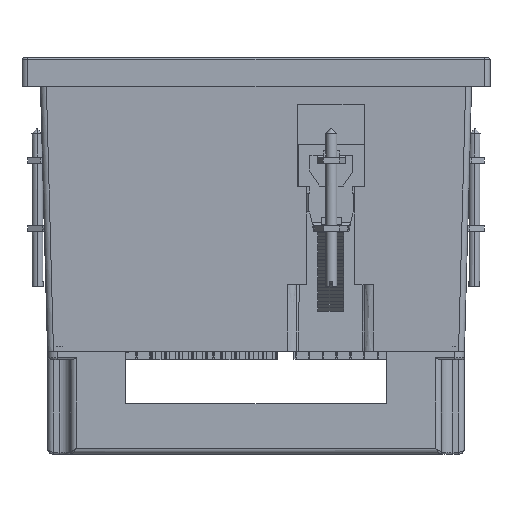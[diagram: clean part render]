
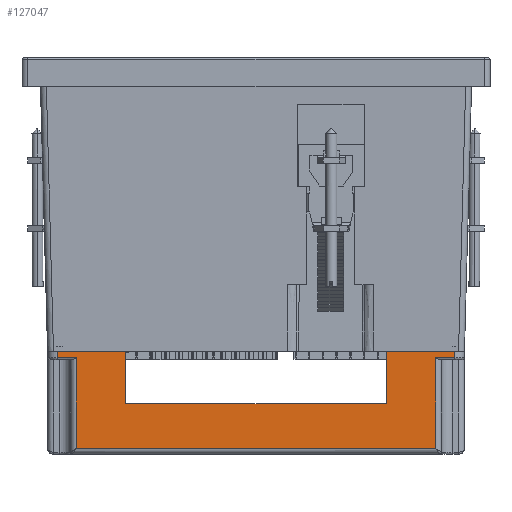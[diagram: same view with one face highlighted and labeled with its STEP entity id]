
A CAD part, front view. The second image highlights one B-rep face of the part: STEP entity #127047.
In plain terms, the highlighted planar face has unit normal (0, -1, 0) as drawn and (1, 0, 0) by its records, which use the part's own axes.
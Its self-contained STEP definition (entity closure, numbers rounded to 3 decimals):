
#8569 = LINE ( 'NONE', #73899, #167357 ) ;
#8739 = CARTESIAN_POINT ( 'NONE',  ( 53., 50.5, 26.2 ) ) ;
#9512 = VECTOR ( 'NONE', #29527, 1000. ) ;
#14799 = CARTESIAN_POINT ( 'NONE',  ( 53., -33.15, 13.4 ) ) ;
#15204 = CARTESIAN_POINT ( 'NONE',  ( 53., 33.15, 13.4 ) ) ;
#16627 = VECTOR ( 'NONE', #84046, 1000. ) ;
#17612 = LINE ( 'NONE', #105299, #16627 ) ;
#22876 = AXIS2_PLACEMENT_3D ( 'NONE', #156516, #109311, #160917 ) ;
#27004 = EDGE_CURVE ( 'NONE', #212692, #69474, #182633, .T. ) ;
#29527 = DIRECTION ( 'NONE',  ( 0., -1., 0. ) ) ;
#47766 = EDGE_CURVE ( 'NONE', #209708, #181009, #8569, .T. ) ;
#49758 = LINE ( 'NONE', #14799, #9512 ) ;
#49821 = CARTESIAN_POINT ( 'NONE',  ( 53., -45.668, 24.7 ) ) ;
#50200 = VERTEX_POINT ( 'NONE', #84126 ) ;
#51980 = CARTESIAN_POINT ( 'NONE',  ( 53., 33.15, 0. ) ) ;
#51994 = ORIENTED_EDGE ( 'NONE', *, *, #70363, .T. ) ;
#53472 = CARTESIAN_POINT ( 'NONE',  ( 53., 50.5, 0. ) ) ;
#55742 = CARTESIAN_POINT ( 'NONE',  ( 53., 33.15, 13.4 ) ) ;
#60232 = LINE ( 'NONE', #111821, #207778 ) ;
#60602 = LINE ( 'NONE', #8739, #164015 ) ;
#63640 = DIRECTION ( 'NONE',  ( 0., 0., -1. ) ) ;
#64411 = LINE ( 'NONE', #81222, #190475 ) ;
#66934 = DIRECTION ( 'NONE',  ( 0., -1., 0. ) ) ;
#69474 = VERTEX_POINT ( 'NONE', #100285 ) ;
#70363 = EDGE_CURVE ( 'NONE', #167577, #209708, #151968, .T. ) ;
#71682 = CARTESIAN_POINT ( 'NONE',  ( 53., -33.15, 0. ) ) ;
#72120 = ORIENTED_EDGE ( 'NONE', *, *, #47766, .T. ) ;
#73714 = DIRECTION ( 'NONE',  ( 0., -1., 0. ) ) ;
#73899 = CARTESIAN_POINT ( 'NONE',  ( 53., 45.668, 26.2 ) ) ;
#74062 = EDGE_CURVE ( 'NONE', #107701, #171553, #60232, .T. ) ;
#74816 = EDGE_CURVE ( 'NONE', #107701, #113567, #116406, .T. ) ;
#77359 = ORIENTED_EDGE ( 'NONE', *, *, #187560, .F. ) ;
#77392 = DIRECTION ( 'NONE',  ( 0., 0., -1. ) ) ;
#81222 = CARTESIAN_POINT ( 'NONE',  ( 53., -33.15, 13.4 ) ) ;
#82361 = ORIENTED_EDGE ( 'NONE', *, *, #152418, .T. ) ;
#83795 = CARTESIAN_POINT ( 'NONE',  ( 53., -33.15, 13.4 ) ) ;
#83999 = ORIENTED_EDGE ( 'NONE', *, *, #204595, .T. ) ;
#84046 = DIRECTION ( 'NONE',  ( 0., 0., -1. ) ) ;
#84126 = CARTESIAN_POINT ( 'NONE',  ( 53., -50.5, 1.66 ) ) ;
#85996 = ORIENTED_EDGE ( 'NONE', *, *, #74816, .F. ) ;
#89012 = CARTESIAN_POINT ( 'NONE',  ( 53., 50.5, 0. ) ) ;
#91352 = EDGE_CURVE ( 'NONE', #113567, #154811, #49758, .T. ) ;
#95769 = VECTOR ( 'NONE', #66934, 1000. ) ;
#96788 = EDGE_CURVE ( 'NONE', #181009, #212692, #221871, .T. ) ;
#100285 = CARTESIAN_POINT ( 'NONE',  ( 53., -45.668, 1.66 ) ) ;
#100712 = VECTOR ( 'NONE', #149021, 1000. ) ;
#105299 = CARTESIAN_POINT ( 'NONE',  ( 53., -50.5, 26.2 ) ) ;
#107701 = VERTEX_POINT ( 'NONE', #51980 ) ;
#109311 = DIRECTION ( 'NONE',  ( -1., 0., 0. ) ) ;
#110684 = LINE ( 'NONE', #160127, #220433 ) ;
#111821 = CARTESIAN_POINT ( 'NONE',  ( 53., 50.5, 0. ) ) ;
#112035 = DIRECTION ( 'NONE',  ( 0., 0., 1. ) ) ;
#113567 = VERTEX_POINT ( 'NONE', #55742 ) ;
#113808 = DIRECTION ( 'NONE',  ( 0., 0., -1. ) ) ;
#116406 = LINE ( 'NONE', #15204, #100712 ) ;
#118283 = CARTESIAN_POINT ( 'NONE',  ( 53., 45.668, 1.66 ) ) ;
#121098 = VECTOR ( 'NONE', #139572, 1000. ) ;
#122110 = ORIENTED_EDGE ( 'NONE', *, *, #91352, .F. ) ;
#126036 = LINE ( 'NONE', #89012, #121098 ) ;
#127047 = ADVANCED_FACE ( 'NONE', ( #173344 ), #174468, .F. ) ;
#130996 = CARTESIAN_POINT ( 'NONE',  ( 53., 45.668, 1.66 ) ) ;
#131877 = EDGE_LOOP ( 'NONE', ( #205990, #83999, #82361, #181233, #187876, #122110, #85996, #174260, #77359, #51994, #72120, #205256 ) ) ;
#134929 = EDGE_CURVE ( 'NONE', #154811, #216410, #64411, .T. ) ;
#136438 = CARTESIAN_POINT ( 'NONE',  ( 53., 50.5, 24.7 ) ) ;
#138873 = VECTOR ( 'NONE', #202551, 1000. ) ;
#139572 = DIRECTION ( 'NONE',  ( 0., 1., 0. ) ) ;
#148961 = CARTESIAN_POINT ( 'NONE',  ( 53., -45.668, 26.2 ) ) ;
#149021 = DIRECTION ( 'NONE',  ( 0., 0., 1. ) ) ;
#151968 = LINE ( 'NONE', #118283, #138873 ) ;
#152418 = EDGE_CURVE ( 'NONE', #50200, #205444, #17612, .T. ) ;
#152908 = EDGE_CURVE ( 'NONE', #205444, #216410, #126036, .T. ) ;
#154811 = VERTEX_POINT ( 'NONE', #83795 ) ;
#156516 = CARTESIAN_POINT ( 'NONE',  ( 53., 50.5, 26.2 ) ) ;
#160127 = CARTESIAN_POINT ( 'NONE',  ( 53., -50.5, 1.66 ) ) ;
#160917 = DIRECTION ( 'NONE',  ( 0., -1., 0. ) ) ;
#164015 = VECTOR ( 'NONE', #77392, 1000. ) ;
#167357 = VECTOR ( 'NONE', #112035, 1000. ) ;
#167577 = VERTEX_POINT ( 'NONE', #178589 ) ;
#171553 = VERTEX_POINT ( 'NONE', #53472 ) ;
#173344 = FACE_OUTER_BOUND ( 'NONE', #131877, .T. ) ;
#174260 = ORIENTED_EDGE ( 'NONE', *, *, #74062, .T. ) ;
#174468 = PLANE ( 'NONE',  #22876 ) ;
#176024 = VECTOR ( 'NONE', #63640, 1000. ) ;
#178589 = CARTESIAN_POINT ( 'NONE',  ( 53., 50.5, 1.66 ) ) ;
#181009 = VERTEX_POINT ( 'NONE', #188873 ) ;
#181233 = ORIENTED_EDGE ( 'NONE', *, *, #152908, .T. ) ;
#182633 = LINE ( 'NONE', #148961, #176024 ) ;
#187560 = EDGE_CURVE ( 'NONE', #167577, #171553, #60602, .T. ) ;
#187876 = ORIENTED_EDGE ( 'NONE', *, *, #134929, .F. ) ;
#188873 = CARTESIAN_POINT ( 'NONE',  ( 53., 45.668, 24.7 ) ) ;
#190475 = VECTOR ( 'NONE', #113808, 1000. ) ;
#202551 = DIRECTION ( 'NONE',  ( 0., -1., 0. ) ) ;
#204595 = EDGE_CURVE ( 'NONE', #69474, #50200, #110684, .T. ) ;
#205256 = ORIENTED_EDGE ( 'NONE', *, *, #96788, .T. ) ;
#205444 = VERTEX_POINT ( 'NONE', #207140 ) ;
#205990 = ORIENTED_EDGE ( 'NONE', *, *, #27004, .T. ) ;
#207140 = CARTESIAN_POINT ( 'NONE',  ( 53., -50.5, 0. ) ) ;
#207778 = VECTOR ( 'NONE', #217352, 1000. ) ;
#209708 = VERTEX_POINT ( 'NONE', #130996 ) ;
#212692 = VERTEX_POINT ( 'NONE', #49821 ) ;
#216410 = VERTEX_POINT ( 'NONE', #71682 ) ;
#217352 = DIRECTION ( 'NONE',  ( 0., 1., 0. ) ) ;
#220433 = VECTOR ( 'NONE', #73714, 1000. ) ;
#221871 = LINE ( 'NONE', #136438, #95769 ) ;
